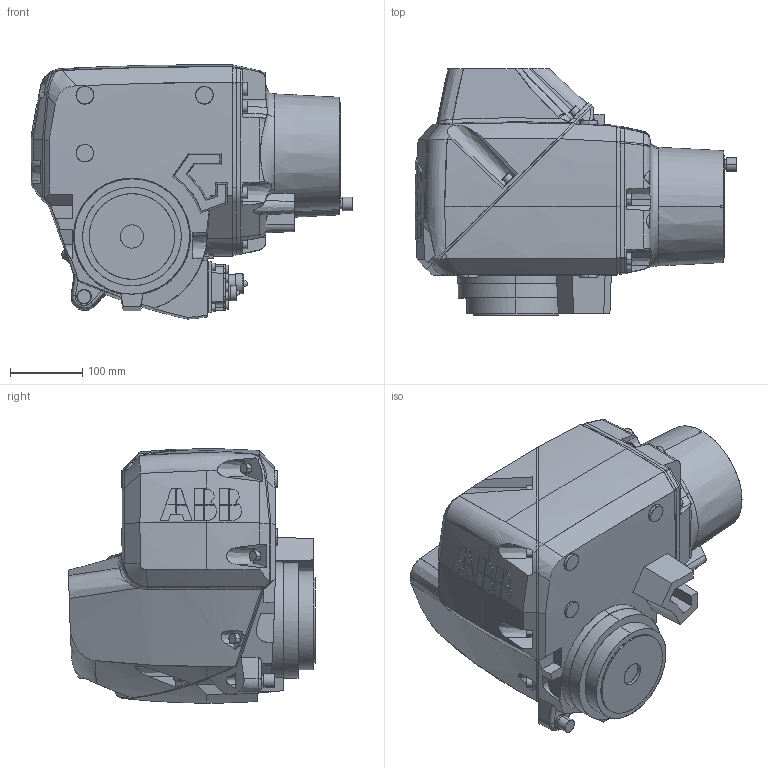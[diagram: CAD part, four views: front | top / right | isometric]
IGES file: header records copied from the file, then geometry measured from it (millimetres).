
Start section: SolidWorks IGES file using analytic representation for surfaces
Global section: file name: C:\Users\CNVIWU6\Desktop\Customer CAD\New model\Base\IRB2600_TYPEC_12kg-165_IRC5_rev00_PARASOLID_j\IRB2600-TYPEC_12kg-165_LINK3_CAD_rev00.IGS; native system: SolidWorks 2016; preprocessor: SolidWorks 2016; author: CNVIWU6; date: 180626.123031; units: millimetre
Bounding box: 444.23 x 340.66 x 351.15 mm (x, y, z)
Surface area: 592496.1 mm2 (no closed solid volume)
Topology: 0 solids, 0 shells, 711 faces, 10261 edges, 10248 vertices
Faces by surface type: bspline 452, revolution 259
